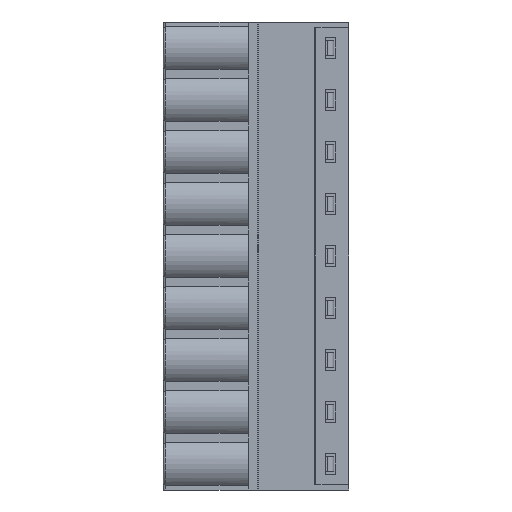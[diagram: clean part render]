
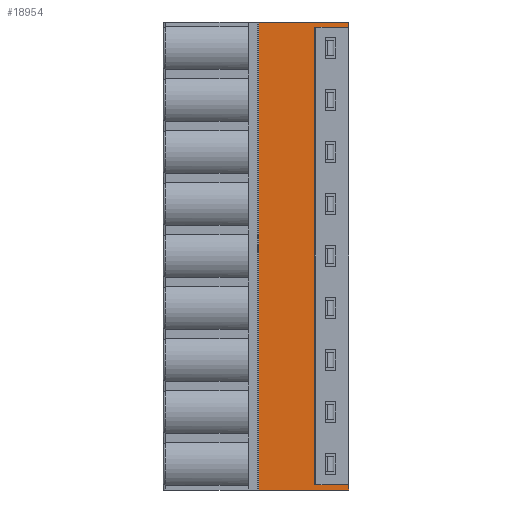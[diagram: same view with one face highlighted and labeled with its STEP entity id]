
A CAD part, left-side view. The second image highlights one B-rep face of the part: STEP entity #18954.
In plain terms, the highlighted planar face has unit normal (-1, 0, 0).
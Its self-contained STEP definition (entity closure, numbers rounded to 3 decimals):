
#111 = VECTOR ( 'NONE', #29551, 1000. ) ;
#225 = CARTESIAN_POINT ( 'NONE',  ( -3.9, 0., 45.23 ) ) ;
#226 = EDGE_CURVE ( 'NONE', #36901, #6832, #32198, .T. ) ;
#336 = DIRECTION ( 'NONE',  ( 0., 0., 1. ) ) ;
#427 = LINE ( 'NONE', #37424, #9289 ) ;
#1156 = VERTEX_POINT ( 'NONE', #25627 ) ;
#1342 = CARTESIAN_POINT ( 'NONE',  ( -3.9, 0., 45.72 ) ) ;
#2257 = CARTESIAN_POINT ( 'NONE',  ( -3.9, 0., 0.49 ) ) ;
#2305 = CARTESIAN_POINT ( 'NONE',  ( -3.9, 3.3, 45.228 ) ) ;
#2568 = LINE ( 'NONE', #25709, #8836 ) ;
#2894 = DIRECTION ( 'NONE',  ( 0., -1., 0. ) ) ;
#3847 = AXIS2_PLACEMENT_3D ( 'NONE', #25562, #37333, #336 ) ;
#4357 = CARTESIAN_POINT ( 'NONE',  ( -3.9, 3.3, 0.492 ) ) ;
#5325 = VERTEX_POINT ( 'NONE', #19177 ) ;
#5781 = ORIENTED_EDGE ( 'NONE', *, *, #226, .T. ) ;
#6832 = VERTEX_POINT ( 'NONE', #29425 ) ;
#6852 = LINE ( 'NONE', #21641, #28809 ) ;
#6899 = B_SPLINE_CURVE_WITH_KNOTS ( 'NONE', 3,
 ( #15876, #28211, #21940, #13232 ),
 .UNSPECIFIED., .F., .F.,
 ( 4, 4 ),
 ( 0., 1. ),
 .UNSPECIFIED. ) ;
#7111 = DIRECTION ( 'NONE',  ( 0., 0., -1. ) ) ;
#7315 = B_SPLINE_CURVE_WITH_KNOTS ( 'NONE', 3,
 ( #2305, #16340, #10468, #22405 ),
 .UNSPECIFIED., .F., .F.,
 ( 4, 4 ),
 ( 0., 1. ),
 .UNSPECIFIED. ) ;
#7624 = ORIENTED_EDGE ( 'NONE', *, *, #23353, .F. ) ;
#8199 = VERTEX_POINT ( 'NONE', #4357 ) ;
#8455 = DIRECTION ( 'NONE',  ( 0., -1., 0. ) ) ;
#8806 = VECTOR ( 'NONE', #8455, 1000. ) ;
#8836 = VECTOR ( 'NONE', #37292, 1000. ) ;
#9289 = VECTOR ( 'NONE', #2894, 1000. ) ;
#9702 = DIRECTION ( 'NONE',  ( 0., 0., -1. ) ) ;
#10468 = CARTESIAN_POINT ( 'NONE',  ( -3.9, 3.033, 45.229 ) ) ;
#10796 = CARTESIAN_POINT ( 'NONE',  ( -3.9, 0.967, 0.49 ) ) ;
#11143 = CARTESIAN_POINT ( 'NONE',  ( -3.9, 0., 0.49 ) ) ;
#11307 = LINE ( 'NONE', #34448, #8806 ) ;
#11521 = FACE_OUTER_BOUND ( 'NONE', #17823, .T. ) ;
#12157 = CARTESIAN_POINT ( 'NONE',  ( -3.9, 0.967, 45.23 ) ) ;
#13182 = LINE ( 'NONE', #24734, #33809 ) ;
#13232 = CARTESIAN_POINT ( 'NONE',  ( -3.9, 2.9, 0.49 ) ) ;
#14107 = EDGE_CURVE ( 'NONE', #34533, #5325, #7315, .T. ) ;
#14891 = CARTESIAN_POINT ( 'NONE',  ( -3.9, 0., 0. ) ) ;
#14925 = EDGE_CURVE ( 'NONE', #8199, #1156, #6899, .T. ) ;
#15568 = CARTESIAN_POINT ( 'NONE',  ( -3.9, 1.933, 45.23 ) ) ;
#15876 = CARTESIAN_POINT ( 'NONE',  ( -3.9, 3.3, 0.492 ) ) ;
#16340 = CARTESIAN_POINT ( 'NONE',  ( -3.9, 3.167, 45.228 ) ) ;
#17189 = VERTEX_POINT ( 'NONE', #1342 ) ;
#17823 = EDGE_LOOP ( 'NONE', ( #19277, #21205, #34721, #35713, #33695, #37387, #32632, #7624, #36266, #5781 ) ) ;
#18954 = ADVANCED_FACE ( 'NONE', ( #11521 ), #35042, .T. ) ;
#19177 = CARTESIAN_POINT ( 'NONE',  ( -3.9, 2.9, 45.23 ) ) ;
#19277 = ORIENTED_EDGE ( 'NONE', *, *, #33311, .T. ) ;
#19744 = VERTEX_POINT ( 'NONE', #14891 ) ;
#20348 = EDGE_CURVE ( 'NONE', #20776, #19744, #6852, .T. ) ;
#20776 = VERTEX_POINT ( 'NONE', #11143 ) ;
#21205 = ORIENTED_EDGE ( 'NONE', *, *, #20348, .F. ) ;
#21641 = CARTESIAN_POINT ( 'NONE',  ( -3.9, 0., 0.49 ) ) ;
#21940 = CARTESIAN_POINT ( 'NONE',  ( -3.9, 3.033, 0.491 ) ) ;
#22357 = CARTESIAN_POINT ( 'NONE',  ( -3.9, 2.9, 0.49 ) ) ;
#22405 = CARTESIAN_POINT ( 'NONE',  ( -3.9, 2.9, 45.23 ) ) ;
#22844 = B_SPLINE_CURVE_WITH_KNOTS ( 'NONE', 3,
 ( #22357, #30894, #10796, #2257 ),
 .UNSPECIFIED., .F., .F.,
 ( 4, 4 ),
 ( 0., 1. ),
 .UNSPECIFIED. ) ;
#23353 = EDGE_CURVE ( 'NONE', #17189, #32174, #13182, .T. ) ;
#24235 = EDGE_CURVE ( 'NONE', #1156, #20776, #22844, .T. ) ;
#24734 = CARTESIAN_POINT ( 'NONE',  ( -3.9, 0., 45.72 ) ) ;
#25562 = CARTESIAN_POINT ( 'NONE',  ( -3.9, 8.9, 0. ) ) ;
#25627 = CARTESIAN_POINT ( 'NONE',  ( -3.9, 2.9, 0.49 ) ) ;
#25709 = CARTESIAN_POINT ( 'NONE',  ( -3.9, 3.3, 45.228 ) ) ;
#26758 = CARTESIAN_POINT ( 'NONE',  ( -3.9, 0., 45.23 ) ) ;
#28211 = CARTESIAN_POINT ( 'NONE',  ( -3.9, 3.167, 0.492 ) ) ;
#28809 = VECTOR ( 'NONE', #9702, 1000. ) ;
#29425 = CARTESIAN_POINT ( 'NONE',  ( -3.9, 8.8, 0. ) ) ;
#29551 = DIRECTION ( 'NONE',  ( 0., 0., -1. ) ) ;
#29792 = CARTESIAN_POINT ( 'NONE',  ( -3.9, 2.9, 45.23 ) ) ;
#29823 = EDGE_CURVE ( 'NONE', #5325, #32174, #31052, .T. ) ;
#30077 = CARTESIAN_POINT ( 'NONE',  ( -3.9, 8.8, 45.72 ) ) ;
#30894 = CARTESIAN_POINT ( 'NONE',  ( -3.9, 1.933, 0.49 ) ) ;
#31052 = B_SPLINE_CURVE_WITH_KNOTS ( 'NONE', 3,
 ( #29792, #15568, #12157, #26758 ),
 .UNSPECIFIED., .F., .F.,
 ( 4, 4 ),
 ( 0., 1. ),
 .UNSPECIFIED. ) ;
#32174 = VERTEX_POINT ( 'NONE', #225 ) ;
#32198 = LINE ( 'NONE', #35421, #111 ) ;
#32632 = ORIENTED_EDGE ( 'NONE', *, *, #29823, .T. ) ;
#33311 = EDGE_CURVE ( 'NONE', #6832, #19744, #427, .T. ) ;
#33695 = ORIENTED_EDGE ( 'NONE', *, *, #35565, .F. ) ;
#33809 = VECTOR ( 'NONE', #7111, 1000. ) ;
#34448 = CARTESIAN_POINT ( 'NONE',  ( -3.9, 8.8, 45.72 ) ) ;
#34533 = VERTEX_POINT ( 'NONE', #35750 ) ;
#34721 = ORIENTED_EDGE ( 'NONE', *, *, #24235, .F. ) ;
#35042 = PLANE ( 'NONE',  #3847 ) ;
#35421 = CARTESIAN_POINT ( 'NONE',  ( -3.9, 8.8, 45.72 ) ) ;
#35565 = EDGE_CURVE ( 'NONE', #34533, #8199, #2568, .T. ) ;
#35713 = ORIENTED_EDGE ( 'NONE', *, *, #14925, .F. ) ;
#35750 = CARTESIAN_POINT ( 'NONE',  ( -3.9, 3.3, 45.228 ) ) ;
#36266 = ORIENTED_EDGE ( 'NONE', *, *, #36712, .F. ) ;
#36712 = EDGE_CURVE ( 'NONE', #36901, #17189, #11307, .T. ) ;
#36901 = VERTEX_POINT ( 'NONE', #30077 ) ;
#37292 = DIRECTION ( 'NONE',  ( 0., 0., -1. ) ) ;
#37333 = DIRECTION ( 'NONE',  ( -1., 0., 0. ) ) ;
#37387 = ORIENTED_EDGE ( 'NONE', *, *, #14107, .T. ) ;
#37424 = CARTESIAN_POINT ( 'NONE',  ( -3.9, 8.8, 0. ) ) ;
